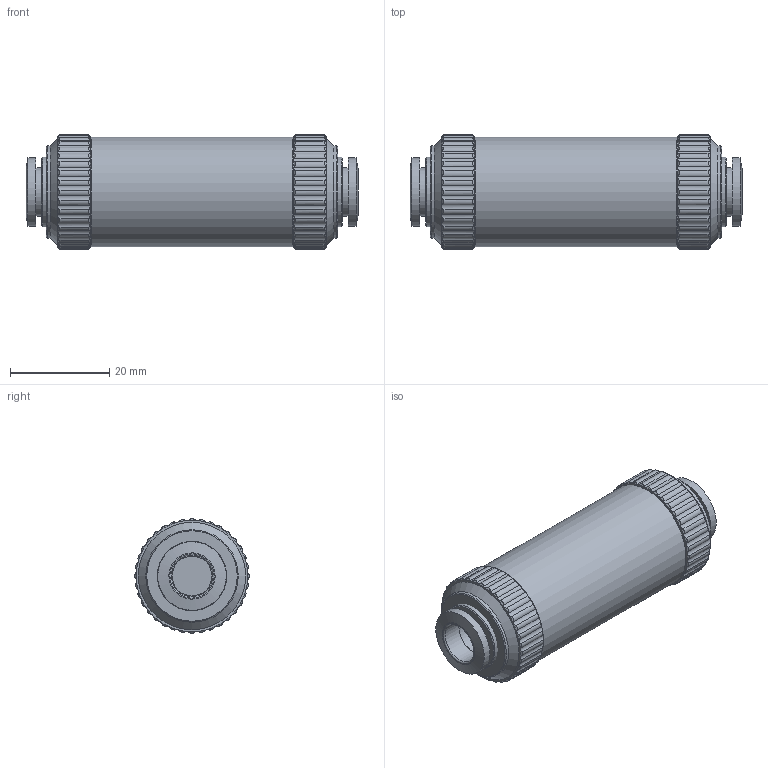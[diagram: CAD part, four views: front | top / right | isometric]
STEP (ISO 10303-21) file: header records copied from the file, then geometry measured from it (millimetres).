
FILE_DESCRIPTION(('STEP AP203'),'1');
FILE_NAME('BVFL-88_3D.stp','2024-09-30T02:51:04',(' '),(' '),'Spatial InterOp 3D',' ',' ');
FILE_SCHEMA(('CONFIG_CONTROL_DESIGN'));
Length unit declared in the file: millimetre
Products named in the file (4): BVFL-88; BCAS08; BVFL-88Yes44
Assembly tree (3 placements, depth 2):
  BVFL-88
    BCAS08
    BCAS08
    BVFL-88Yes44
Bounding box: 66.8 x 23 x 23 mm (x, y, z)
Volume: 22990.2 mm3; surface area: 8055.6 mm2
Topology: 3 solids, 3 shells, 355 faces, 829 edges, 498 vertices
Faces by surface type: cylinder 167, cone 158, plane 24, torus 6
Full cylindrical faces by diameter (mm): 8 x2, 8.3 x2, 9.8 x2, 12.8 x4, 12.9 x2, 13.25 x4, 13.8 x2, 14 x2, 18.6 x2, 22 x1
Entity records: 12944 total; most frequent: CARTESIAN_POINT 5573, ORIENTED_EDGE 1568, DIRECTION 1278, EDGE_CURVE 784, AXIS2_PLACEMENT_3D 567, VERTEX_POINT 496, B_SPLINE_CURVE_WITH_KNOTS 432, EDGE_LOOP 420
